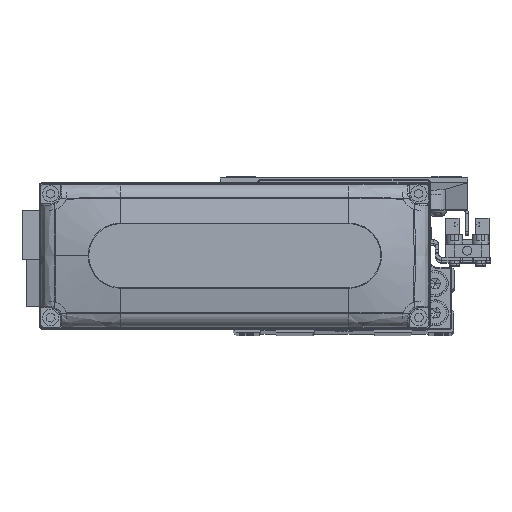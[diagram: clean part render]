
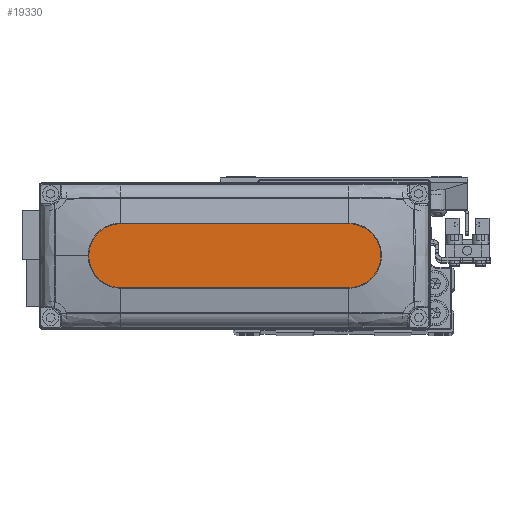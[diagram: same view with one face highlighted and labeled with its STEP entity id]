
A CAD part, top view. The second image highlights one B-rep face of the part: STEP entity #19330.
In plain terms, the highlighted planar face has unit normal (0, 0, 1).
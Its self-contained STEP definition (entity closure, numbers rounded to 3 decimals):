
#1544 = DIRECTION ( 'NONE',  ( 1., 0., 0. ) ) ;
#3701 = ORIENTED_EDGE ( 'NONE', *, *, #4339, .T. ) ;
#4339 = EDGE_CURVE ( 'NONE', #12023, #30732, #12881, .T. ) ;
#4744 = VERTEX_POINT ( 'NONE', #36473 ) ;
#4915 = PLANE ( 'NONE',  #27654 ) ;
#5445 = AXIS2_PLACEMENT_3D ( 'NONE', #26236, #39954, #9121 ) ;
#6264 = VECTOR ( 'NONE', #40334, 1000. ) ;
#8636 = CARTESIAN_POINT ( 'NONE',  ( -35., 0., 28. ) ) ;
#9121 = DIRECTION ( 'NONE',  ( 1., 0., 0. ) ) ;
#9274 = CARTESIAN_POINT ( 'NONE',  ( 35., 0., 28. ) ) ;
#10539 = DIRECTION ( 'NONE',  ( -1., 0., 0. ) ) ;
#12023 = VERTEX_POINT ( 'NONE', #31980 ) ;
#12881 = LINE ( 'NONE', #26613, #6264 ) ;
#18644 = CARTESIAN_POINT ( 'NONE',  ( 0., 0., 28. ) ) ;
#19330 = ADVANCED_FACE ( 'NONE', ( #35751 ), #4915, .T. ) ;
#20092 = CARTESIAN_POINT ( 'NONE',  ( -35., 10., 28. ) ) ;
#20179 = AXIS2_PLACEMENT_3D ( 'NONE', #8636, #22374, #36095 ) ;
#20476 = EDGE_CURVE ( 'NONE', #4744, #23702, #24863, .T. ) ;
#21195 = ORIENTED_EDGE ( 'NONE', *, *, #20476, .T. ) ;
#22214 = AXIS2_PLACEMENT_3D ( 'NONE', #9274, #23017, #36729 ) ;
#22235 = ORIENTED_EDGE ( 'NONE', *, *, #26526, .T. ) ;
#22374 = DIRECTION ( 'NONE',  ( 0., 0., 1. ) ) ;
#23017 = DIRECTION ( 'NONE',  ( 0., 0., 1. ) ) ;
#23593 = ORIENTED_EDGE ( 'NONE', *, *, #31738, .T. ) ;
#23702 = VERTEX_POINT ( 'NONE', #34507 ) ;
#24863 = CIRCLE ( 'NONE', #5445, 10. ) ;
#26236 = CARTESIAN_POINT ( 'NONE',  ( 35., 0., 28. ) ) ;
#26526 = EDGE_CURVE ( 'NONE', #30732, #4744, #41602, .T. ) ;
#26613 = CARTESIAN_POINT ( 'NONE',  ( -35., -10., 28. ) ) ;
#27232 = VECTOR ( 'NONE', #10539, 1000. ) ;
#27645 = LINE ( 'NONE', #41360, #27232 ) ;
#27654 = AXIS2_PLACEMENT_3D ( 'NONE', #18644, #32376, #1544 ) ;
#30117 = EDGE_CURVE ( 'NONE', #23702, #39991, #27645, .T. ) ;
#30732 = VERTEX_POINT ( 'NONE', #35838 ) ;
#31738 = EDGE_CURVE ( 'NONE', #39991, #12023, #39552, .T. ) ;
#31980 = CARTESIAN_POINT ( 'NONE',  ( -35., -10., 28. ) ) ;
#32376 = DIRECTION ( 'NONE',  ( 0., 0., 1. ) ) ;
#34507 = CARTESIAN_POINT ( 'NONE',  ( 35., 10., 28. ) ) ;
#35751 = FACE_OUTER_BOUND ( 'NONE', #37466, .T. ) ;
#35838 = CARTESIAN_POINT ( 'NONE',  ( 35., -10., 28. ) ) ;
#36095 = DIRECTION ( 'NONE',  ( 1., 0., 0. ) ) ;
#36473 = CARTESIAN_POINT ( 'NONE',  ( 45., 0., 28. ) ) ;
#36729 = DIRECTION ( 'NONE',  ( 1., 0., 0. ) ) ;
#37466 = EDGE_LOOP ( 'NONE', ( #44087, #23593, #3701, #22235, #21195 ) ) ;
#39552 = CIRCLE ( 'NONE', #20179, 10. ) ;
#39954 = DIRECTION ( 'NONE',  ( 0., 0., 1. ) ) ;
#39991 = VERTEX_POINT ( 'NONE', #20092 ) ;
#40334 = DIRECTION ( 'NONE',  ( 1., 0., 0. ) ) ;
#41360 = CARTESIAN_POINT ( 'NONE',  ( -35., 10., 28. ) ) ;
#41602 = CIRCLE ( 'NONE', #22214, 10. ) ;
#44087 = ORIENTED_EDGE ( 'NONE', *, *, #30117, .T. ) ;
